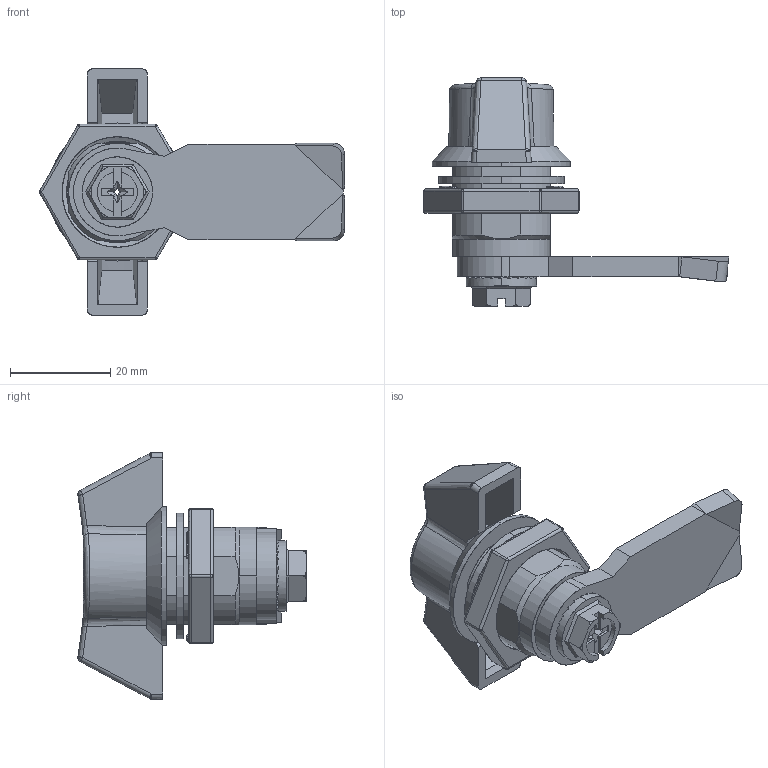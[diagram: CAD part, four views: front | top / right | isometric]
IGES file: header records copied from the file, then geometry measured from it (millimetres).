
Start section: SolidWorks IGES file using analytic representation for surfaces
Global section: file name: C:\Users\cbrechard\Desktop\VE-PA-2233-H18-PN.IGS; native system: SolidWorks 2017; preprocessor: SolidWorks 2017; author: cbrechard; date: 250715.145720; units: millimetre
Bounding box: 60.75 x 45.44 x 49 mm (x, y, z)
Surface area: 10382.9 mm2 (no closed solid volume)
Topology: 0 solids, 0 shells, 292 faces, 3085 edges, 3056 vertices
Faces by surface type: bspline 202, revolution 90
